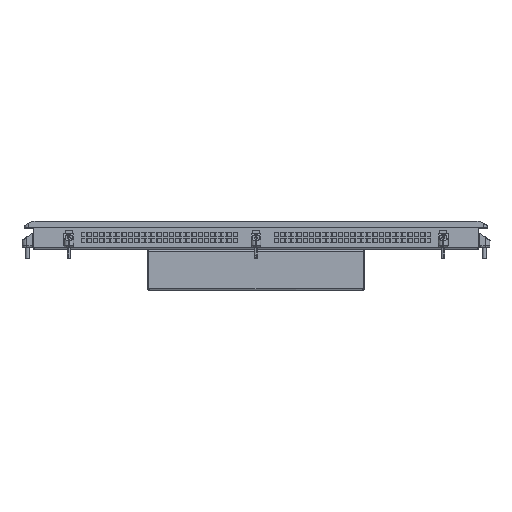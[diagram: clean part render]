
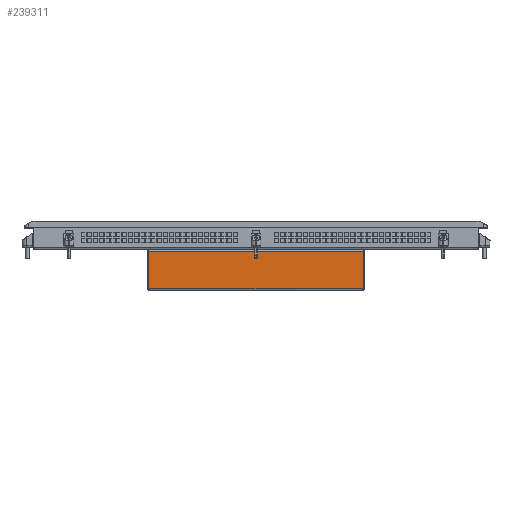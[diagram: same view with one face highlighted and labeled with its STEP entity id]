
A CAD part, top view. The second image highlights one B-rep face of the part: STEP entity #239311.
In plain terms, the highlighted planar face has unit normal (0, 0, 1) as drawn and (0, 1, 0) by its records, which use the part's own axes.
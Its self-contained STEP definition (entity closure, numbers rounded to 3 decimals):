
#962 = CARTESIAN_POINT ( 'NONE',  ( -2.38, 127.571, -7.6 ) ) ;
#11418 = PLANE ( 'NONE',  #278984 ) ;
#15835 = CARTESIAN_POINT ( 'NONE',  ( -2.38, 127.571, 26.5 ) ) ;
#22280 = EDGE_CURVE ( 'NONE', #155013, #64974, #90398, .T. ) ;
#22762 = LINE ( 'NONE', #66903, #105210 ) ;
#26405 = VERTEX_POINT ( 'NONE', #962 ) ;
#30592 = VERTEX_POINT ( 'NONE', #15835 ) ;
#36174 = DIRECTION ( 'NONE',  ( 1., 0., 0. ) ) ;
#56112 = FACE_OUTER_BOUND ( 'NONE', #349345, .T. ) ;
#57172 = CARTESIAN_POINT ( 'NONE',  ( -2.38, 127.571, -9.2 ) ) ;
#58862 = ORIENTED_EDGE ( 'NONE', *, *, #325876, .T. ) ;
#60515 = CARTESIAN_POINT ( 'NONE',  ( 193.32, 127.571, 26.5 ) ) ;
#64974 = VERTEX_POINT ( 'NONE', #235836 ) ;
#66903 = CARTESIAN_POINT ( 'NONE',  ( 193.32, 127.571, -7.6 ) ) ;
#90398 = LINE ( 'NONE', #161538, #237499 ) ;
#97271 = LINE ( 'NONE', #60515, #266257 ) ;
#97507 = LINE ( 'NONE', #57172, #145174 ) ;
#105210 = VECTOR ( 'NONE', #265602, 1000. ) ;
#122924 = DIRECTION ( 'NONE',  ( 0., 1., 0. ) ) ;
#145174 = VECTOR ( 'NONE', #248738, 1000. ) ;
#150854 = ORIENTED_EDGE ( 'NONE', *, *, #177441, .T. ) ;
#155013 = VERTEX_POINT ( 'NONE', #269309 ) ;
#161538 = CARTESIAN_POINT ( 'NONE',  ( 192.52, 127.571, -9.2 ) ) ;
#177441 = EDGE_CURVE ( 'NONE', #64974, #26405, #22762, .T. ) ;
#179882 = DIRECTION ( 'NONE',  ( 0., 0., 1. ) ) ;
#184625 = DIRECTION ( 'NONE',  ( 0., 0., -1. ) ) ;
#235836 = CARTESIAN_POINT ( 'NONE',  ( 192.52, 127.571, -7.6 ) ) ;
#237499 = VECTOR ( 'NONE', #184625, 1000. ) ;
#239311 = ADVANCED_FACE ( 'NONE', ( #56112 ), #11418, .T. ) ;
#244713 = ORIENTED_EDGE ( 'NONE', *, *, #256136, .T. ) ;
#248738 = DIRECTION ( 'NONE',  ( 0., 0., 1. ) ) ;
#256136 = EDGE_CURVE ( 'NONE', #30592, #155013, #97271, .T. ) ;
#265602 = DIRECTION ( 'NONE',  ( -1., 0., 0. ) ) ;
#266257 = VECTOR ( 'NONE', #36174, 1000. ) ;
#269309 = CARTESIAN_POINT ( 'NONE',  ( 192.52, 127.571, 26.5 ) ) ;
#278984 = AXIS2_PLACEMENT_3D ( 'NONE', #316887, #122924, #179882 ) ;
#300921 = ORIENTED_EDGE ( 'NONE', *, *, #22280, .T. ) ;
#316887 = CARTESIAN_POINT ( 'NONE',  ( 193.32, 127.571, -9.2 ) ) ;
#325876 = EDGE_CURVE ( 'NONE', #26405, #30592, #97507, .T. ) ;
#349345 = EDGE_LOOP ( 'NONE', ( #58862, #244713, #300921, #150854 ) ) ;
